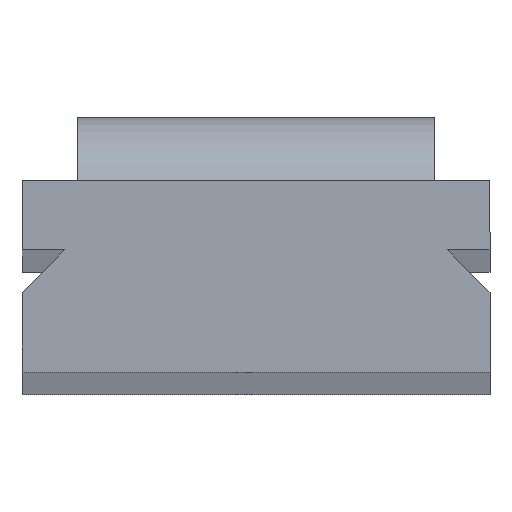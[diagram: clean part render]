
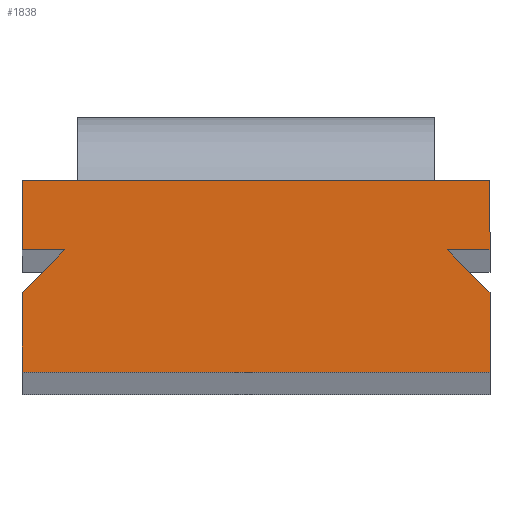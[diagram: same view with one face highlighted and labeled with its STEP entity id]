
A CAD part, top view. The second image highlights one B-rep face of the part: STEP entity #1838.
In plain terms, the highlighted planar face has unit normal (0, 0, 1).
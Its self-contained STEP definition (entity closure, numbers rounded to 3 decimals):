
#127 = VECTOR ( 'NONE', #500, 1000. ) ;
#218 = DIRECTION ( 'NONE',  ( 0., -1., 0. ) ) ;
#454 = VERTEX_POINT ( 'NONE', #695 ) ;
#500 = DIRECTION ( 'NONE',  ( 1., 0., 0. ) ) ;
#539 = VECTOR ( 'NONE', #667, 1000. ) ;
#667 = DIRECTION ( 'NONE',  ( -0.707, -0.707, 0. ) ) ;
#694 = ORIENTED_EDGE ( 'NONE', *, *, #1943, .T. ) ;
#695 = CARTESIAN_POINT ( 'NONE',  ( 44., 23., 40. ) ) ;
#740 = ORIENTED_EDGE ( 'NONE', *, *, #2021, .T. ) ;
#770 = LINE ( 'NONE', #3153, #968 ) ;
#826 = CARTESIAN_POINT ( 'NONE',  ( -44., 0., 40. ) ) ;
#870 = CARTESIAN_POINT ( 'NONE',  ( 44., 36., 40. ) ) ;
#922 = LINE ( 'NONE', #4073, #4522 ) ;
#968 = VECTOR ( 'NONE', #2725, 1000. ) ;
#978 = CARTESIAN_POINT ( 'NONE',  ( 0., 0., 40. ) ) ;
#1045 = VECTOR ( 'NONE', #4643, 1000. ) ;
#1146 = EDGE_CURVE ( 'NONE', #2136, #454, #922, .T. ) ;
#1266 = LINE ( 'NONE', #2835, #1517 ) ;
#1273 = ORIENTED_EDGE ( 'NONE', *, *, #1146, .T. ) ;
#1336 = ORIENTED_EDGE ( 'NONE', *, *, #4505, .T. ) ;
#1464 = LINE ( 'NONE', #1847, #539 ) ;
#1490 = LINE ( 'NONE', #5048, #1045 ) ;
#1517 = VECTOR ( 'NONE', #2007, 1000. ) ;
#1537 = VERTEX_POINT ( 'NONE', #2556 ) ;
#1560 = CARTESIAN_POINT ( 'NONE',  ( 44., 0., 40. ) ) ;
#1566 = CARTESIAN_POINT ( 'NONE',  ( -44., 23., 40. ) ) ;
#1635 = VERTEX_POINT ( 'NONE', #5008 ) ;
#1687 = AXIS2_PLACEMENT_3D ( 'NONE', #978, #3700, #3676 ) ;
#1756 = ORIENTED_EDGE ( 'NONE', *, *, #4523, .T. ) ;
#1763 = ORIENTED_EDGE ( 'NONE', *, *, #2668, .T. ) ;
#1838 = ADVANCED_FACE ( 'NONE', ( #4469 ), #2925, .F. ) ;
#1847 = CARTESIAN_POINT ( 'NONE',  ( -44., 15., 40. ) ) ;
#1858 = ORIENTED_EDGE ( 'NONE', *, *, #4958, .T. ) ;
#1891 = EDGE_CURVE ( 'NONE', #1537, #3738, #1464, .T. ) ;
#1927 = CARTESIAN_POINT ( 'NONE',  ( 36., 23., 40. ) ) ;
#1943 = EDGE_CURVE ( 'NONE', #2494, #4703, #1266, .T. ) ;
#2007 = DIRECTION ( 'NONE',  ( 0., 1., 0. ) ) ;
#2021 = EDGE_CURVE ( 'NONE', #4417, #2494, #4810, .T. ) ;
#2038 = ORIENTED_EDGE ( 'NONE', *, *, #4438, .T. ) ;
#2077 = EDGE_CURVE ( 'NONE', #2554, #1537, #4753, .T. ) ;
#2136 = VERTEX_POINT ( 'NONE', #1927 ) ;
#2277 = VECTOR ( 'NONE', #3282, 1000. ) ;
#2494 = VERTEX_POINT ( 'NONE', #1560 ) ;
#2554 = VERTEX_POINT ( 'NONE', #3123 ) ;
#2556 = CARTESIAN_POINT ( 'NONE',  ( -36., 23., 40. ) ) ;
#2566 = DIRECTION ( 'NONE',  ( 1., 0., 0. ) ) ;
#2668 = EDGE_CURVE ( 'NONE', #4861, #1635, #4462, .T. ) ;
#2725 = DIRECTION ( 'NONE',  ( 0., -1., 0. ) ) ;
#2835 = CARTESIAN_POINT ( 'NONE',  ( 44., 0., 40. ) ) ;
#2925 = PLANE ( 'NONE',  #1687 ) ;
#3123 = CARTESIAN_POINT ( 'NONE',  ( -44., 23., 40. ) ) ;
#3153 = CARTESIAN_POINT ( 'NONE',  ( -44., 36., 40. ) ) ;
#3185 = LINE ( 'NONE', #5055, #3425 ) ;
#3282 = DIRECTION ( 'NONE',  ( -1., 0., 0. ) ) ;
#3308 = EDGE_LOOP ( 'NONE', ( #2038, #740, #694, #1756, #1273, #1858, #1763, #1336, #4960, #3741 ) ) ;
#3337 = CARTESIAN_POINT ( 'NONE',  ( 44., 36., 40. ) ) ;
#3420 = CARTESIAN_POINT ( 'NONE',  ( -44., 15., 40. ) ) ;
#3425 = VECTOR ( 'NONE', #4725, 1000. ) ;
#3676 = DIRECTION ( 'NONE',  ( -1., 0., 0. ) ) ;
#3700 = DIRECTION ( 'NONE',  ( 0., 0., -1. ) ) ;
#3734 = CARTESIAN_POINT ( 'NONE',  ( -44., 0., 40. ) ) ;
#3738 = VERTEX_POINT ( 'NONE', #3420 ) ;
#3740 = VECTOR ( 'NONE', #4260, 1000. ) ;
#3741 = ORIENTED_EDGE ( 'NONE', *, *, #1891, .T. ) ;
#3758 = VECTOR ( 'NONE', #218, 1000. ) ;
#4038 = CARTESIAN_POINT ( 'NONE',  ( 44., 15., 40. ) ) ;
#4073 = CARTESIAN_POINT ( 'NONE',  ( 44., 23., 40. ) ) ;
#4260 = DIRECTION ( 'NONE',  ( 1., 0., 0. ) ) ;
#4417 = VERTEX_POINT ( 'NONE', #3734 ) ;
#4438 = EDGE_CURVE ( 'NONE', #3738, #4417, #4957, .T. ) ;
#4462 = LINE ( 'NONE', #870, #2277 ) ;
#4469 = FACE_OUTER_BOUND ( 'NONE', #3308, .T. ) ;
#4505 = EDGE_CURVE ( 'NONE', #1635, #2554, #770, .T. ) ;
#4522 = VECTOR ( 'NONE', #2566, 1000. ) ;
#4523 = EDGE_CURVE ( 'NONE', #4703, #2136, #3185, .T. ) ;
#4643 = DIRECTION ( 'NONE',  ( 0., 1., 0. ) ) ;
#4703 = VERTEX_POINT ( 'NONE', #4038 ) ;
#4725 = DIRECTION ( 'NONE',  ( -0.707, 0.707, 0. ) ) ;
#4753 = LINE ( 'NONE', #1566, #3740 ) ;
#4810 = LINE ( 'NONE', #826, #127 ) ;
#4861 = VERTEX_POINT ( 'NONE', #3337 ) ;
#4957 = LINE ( 'NONE', #5009, #3758 ) ;
#4958 = EDGE_CURVE ( 'NONE', #454, #4861, #1490, .T. ) ;
#4960 = ORIENTED_EDGE ( 'NONE', *, *, #2077, .T. ) ;
#5008 = CARTESIAN_POINT ( 'NONE',  ( -44., 36., 40. ) ) ;
#5009 = CARTESIAN_POINT ( 'NONE',  ( -44., 0., 40. ) ) ;
#5048 = CARTESIAN_POINT ( 'NONE',  ( 44., 36., 40. ) ) ;
#5055 = CARTESIAN_POINT ( 'NONE',  ( 44., 15., 40. ) ) ;
